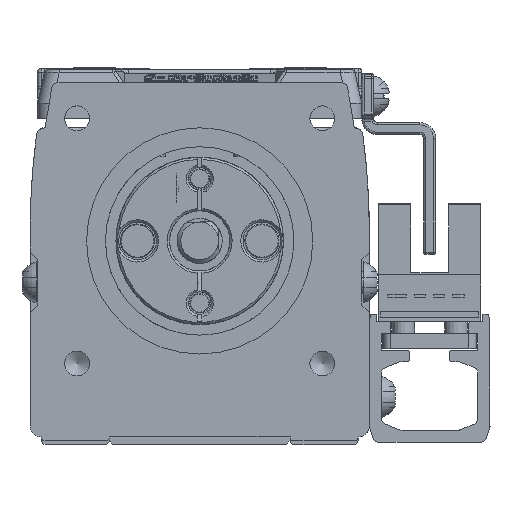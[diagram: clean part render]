
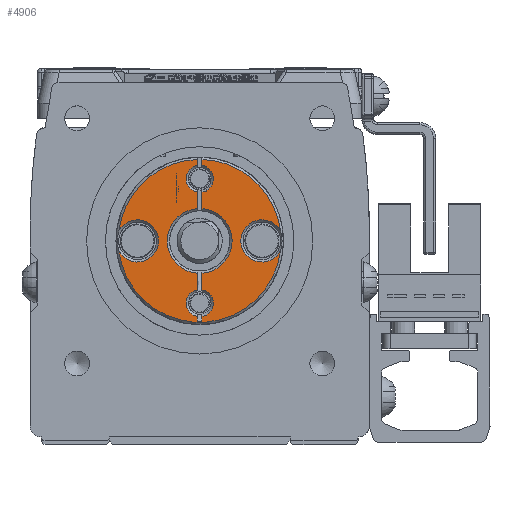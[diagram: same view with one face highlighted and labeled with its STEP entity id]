
A CAD part, left-side view. The second image highlights one B-rep face of the part: STEP entity #4906.
In plain terms, the highlighted planar face has unit normal (-1, 0, 0) as drawn and (1, 0, 0) by its records, which use the part's own axes.
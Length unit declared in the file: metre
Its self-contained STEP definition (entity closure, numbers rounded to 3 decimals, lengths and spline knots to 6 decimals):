
#4906=ADVANCED_FACE('',(#10660),#10661,.F.);
#10660=FACE_OUTER_BOUND('',#18774,.T.);
#10661=PLANE('',#18775);
#18774=EDGE_LOOP('',(#31264,#31265,#31266,#31267,#31268,#31269,#31270,#31271,#31272,#31273,#31274,#31275,#31276,#31277,#31278,#31279,#31280,#31281,#31282,#31283));
#18775=AXIS2_PLACEMENT_3D('',#31284,#31285,#31286);
#31264=ORIENTED_EDGE('',*,*,#50731,.F.);
#31265=ORIENTED_EDGE('',*,*,#50732,.T.);
#31266=ORIENTED_EDGE('',*,*,#49421,.F.);
#31267=ORIENTED_EDGE('',*,*,#50215,.F.);
#31268=ORIENTED_EDGE('',*,*,#50733,.T.);
#31269=ORIENTED_EDGE('',*,*,#50734,.T.);
#31270=ORIENTED_EDGE('',*,*,#50735,.F.);
#31271=ORIENTED_EDGE('',*,*,#49529,.F.);
#31272=ORIENTED_EDGE('',*,*,#50703,.F.);
#31273=ORIENTED_EDGE('',*,*,#50736,.T.);
#31274=ORIENTED_EDGE('',*,*,#50737,.F.);
#31275=ORIENTED_EDGE('',*,*,#50738,.F.);
#31276=ORIENTED_EDGE('',*,*,#50739,.F.);
#31277=ORIENTED_EDGE('',*,*,#50740,.F.);
#31278=ORIENTED_EDGE('',*,*,#50309,.F.);
#31279=ORIENTED_EDGE('',*,*,#50741,.F.);
#31280=ORIENTED_EDGE('',*,*,#50742,.F.);
#31281=ORIENTED_EDGE('',*,*,#50743,.F.);
#31282=ORIENTED_EDGE('',*,*,#50744,.T.);
#31283=ORIENTED_EDGE('',*,*,#50745,.F.);
#31284=CARTESIAN_POINT('',(0.0,0.0,0.));
#31285=DIRECTION('',(-1.0,0.,0.0));
#31286=DIRECTION('',(0.,-1.0,0.0));
#49421=EDGE_CURVE('',#57358,#57359,#57360,.F.);
#49529=EDGE_CURVE('',#57543,#57544,#57545,.T.);
#50215=EDGE_CURVE('',#58728,#57358,#58729,.T.);
#50309=EDGE_CURVE('',#58879,#58880,#58881,.T.);
#50703=EDGE_CURVE('',#59553,#57543,#59555,.T.);
#50731=EDGE_CURVE('',#59602,#59603,#59604,.F.);
#50732=EDGE_CURVE('',#59602,#57359,#59605,.T.);
#50733=EDGE_CURVE('',#58728,#59606,#59607,.F.);
#50734=EDGE_CURVE('',#59606,#59608,#59609,.T.);
#50735=EDGE_CURVE('',#57544,#59608,#59610,.F.);
#50736=EDGE_CURVE('',#59553,#59611,#59612,.T.);
#50737=EDGE_CURVE('',#59613,#59611,#59614,.F.);
#50738=EDGE_CURVE('',#59615,#59613,#59616,.T.);
#50739=EDGE_CURVE('',#59617,#59615,#59618,.T.);
#50740=EDGE_CURVE('',#58880,#59617,#59619,.T.);
#50741=EDGE_CURVE('',#59620,#58879,#59621,.T.);
#50742=EDGE_CURVE('',#59622,#59620,#59623,.T.);
#50743=EDGE_CURVE('',#59624,#59622,#59625,.T.);
#50744=EDGE_CURVE('',#59624,#59626,#59627,.F.);
#50745=EDGE_CURVE('',#59603,#59626,#59628,.T.);
#57358=VERTEX_POINT('',#69019);
#57359=VERTEX_POINT('',#69020);
#57360=LINE('',#69021,#69022);
#57543=VERTEX_POINT('',#69271);
#57544=VERTEX_POINT('',#69272);
#57545=CIRCLE('',#69273,0.0018);
#58728=VERTEX_POINT('',#71040);
#58729=CIRCLE('',#71041,0.0018);
#58879=VERTEX_POINT('',#71274);
#58880=VERTEX_POINT('',#71275);
#58881=CIRCLE('',#71276,0.0028);
#59553=VERTEX_POINT('',#72295);
#59555=LINE('',#72300,#72301);
#59602=VERTEX_POINT('',#72365);
#59603=VERTEX_POINT('',#72366);
#59604=LINE('',#72367,#72368);
#59605=CIRCLE('',#72369,0.0043);
#59606=VERTEX_POINT('',#72370);
#59607=LINE('',#72371,#72372);
#59608=VERTEX_POINT('',#72373);
#59609=LINE('',#72374,#72375);
#59610=LINE('',#72376,#72377);
#59611=VERTEX_POINT('',#72378);
#59612=CIRCLE('',#72379,0.0043);
#59613=VERTEX_POINT('',#72380);
#59614=LINE('',#72381,#72382);
#59615=VERTEX_POINT('',#72383);
#59616=CIRCLE('',#72384,0.0018);
#59617=VERTEX_POINT('',#72385);
#59618=LINE('',#72386,#72387);
#59619=CIRCLE('',#72388,0.0108);
#59620=VERTEX_POINT('',#72389);
#59621=CIRCLE('',#72390,0.0108);
#59622=VERTEX_POINT('',#72391);
#59623=CIRCLE('',#72392,0.0028);
#59624=VERTEX_POINT('',#72393);
#59625=CIRCLE('',#72394,0.0108);
#59626=VERTEX_POINT('',#72395);
#59627=LINE('',#72396,#72397);
#59628=CIRCLE('',#72398,0.0018);
#69019=CARTESIAN_POINT('',(0.,-0.006475,-0.0003));
#69020=CARTESIAN_POINT('',(0.,-0.00429,-0.0003));
#69021=CARTESIAN_POINT('',(0.0,0.0,-0.0003));
#69022=VECTOR('',#86466,1.0);
#69271=CARTESIAN_POINT('',(0.,-0.006475,0.0003));
#69272=CARTESIAN_POINT('',(0.,-0.010025,0.0003));
#69273=AXIS2_PLACEMENT_3D('',#86598,#86599,#86600);
#71040=CARTESIAN_POINT('',(0.,-0.010025,-0.0003));
#71041=AXIS2_PLACEMENT_3D('',#87459,#87460,#87461);
#71274=CARTESIAN_POINT('',(0.,-0.001321,0.010719));
#71275=CARTESIAN_POINT('',(0.,0.001321,0.010719));
#71276=AXIS2_PLACEMENT_3D('',#87581,#87582,#87583);
#72295=CARTESIAN_POINT('',(0.,-0.00429,0.0003));
#72300=CARTESIAN_POINT('',(0.0,0.0,0.0003));
#72301=VECTOR('',#88078,1.0);
#72365=CARTESIAN_POINT('',(0.,0.00429,-0.0003));
#72366=CARTESIAN_POINT('',(0.,0.006475,-0.0003));
#72367=CARTESIAN_POINT('',(0.0,0.0,-0.0003));
#72368=VECTOR('',#88108,1.0);
#72369=AXIS2_PLACEMENT_3D('',#88109,#88110,#88111);
#72370=CARTESIAN_POINT('',(0.,-0.010642,-0.0003));
#72371=CARTESIAN_POINT('',(0.0,0.0025,-0.0003));
#72372=VECTOR('',#88112,1.0);
#72373=CARTESIAN_POINT('',(0.,-0.010642,0.0003));
#72374=CARTESIAN_POINT('',(0.,-0.010642,0.0003));
#72375=VECTOR('',#88113,1.0);
#72376=CARTESIAN_POINT('',(0.0,0.0025,0.0003));
#72377=VECTOR('',#88114,1.0);
#72378=CARTESIAN_POINT('',(0.0,0.00429,0.0003));
#72379=AXIS2_PLACEMENT_3D('',#88115,#88116,#88117);
#72380=CARTESIAN_POINT('',(0.0,0.006475,0.0003));
#72381=CARTESIAN_POINT('',(0.0,0.0025,0.0003));
#72382=VECTOR('',#88118,1.0);
#72383=CARTESIAN_POINT('',(0.,0.010025,0.0003));
#72384=AXIS2_PLACEMENT_3D('',#88119,#88120,#88121);
#72385=CARTESIAN_POINT('',(0.,0.010796,0.0003));
#72386=CARTESIAN_POINT('',(0.0,0.0,0.0003));
#72387=VECTOR('',#88122,1.0);
#72388=AXIS2_PLACEMENT_3D('',#88123,#88124,#88125);
#72389=CARTESIAN_POINT('',(0.,-0.001321,-0.010719));
#72390=AXIS2_PLACEMENT_3D('',#88126,#88127,#88128);
#72391=CARTESIAN_POINT('',(0.,0.001321,-0.010719));
#72392=AXIS2_PLACEMENT_3D('',#88129,#88130,#88131);
#72393=CARTESIAN_POINT('',(0.,0.010796,-0.0003));
#72394=AXIS2_PLACEMENT_3D('',#88132,#88133,#88134);
#72395=CARTESIAN_POINT('',(0.,0.010025,-0.0003));
#72396=CARTESIAN_POINT('',(0.0,0.0025,-0.0003));
#72397=VECTOR('',#88135,1.0);
#72398=AXIS2_PLACEMENT_3D('',#88136,#88137,#88138);
#86466=DIRECTION('',(0.,-1.0,0.0));
#86598=CARTESIAN_POINT('',(0.0,-0.00825,0.));
#86599=DIRECTION('',(1.0,0.0,0.0));
#86600=DIRECTION('',(0.0,0.0,-1.0));
#87459=CARTESIAN_POINT('',(0.0,-0.00825,0.));
#87460=DIRECTION('',(1.0,0.0,0.0));
#87461=DIRECTION('',(0.0,0.0,-1.0));
#87581=CARTESIAN_POINT('',(0.0,0.,0.00825));
#87582=DIRECTION('',(1.0,0.,0.0));
#87583=DIRECTION('',(0.,1.0,0.0));
#88078=DIRECTION('',(0.,-1.0,0.0));
#88108=DIRECTION('',(0.,-1.0,0.0));
#88109=CARTESIAN_POINT('',(0.,0.,0.));
#88110=DIRECTION('',(-1.0,0.,0.0));
#88111=DIRECTION('',(0.,-1.0,0.0));
#88112=DIRECTION('',(0.0,1.0,0.0));
#88113=DIRECTION('',(0.0,0.0,1.0));
#88114=DIRECTION('',(0.0,1.0,0.0));
#88115=CARTESIAN_POINT('',(0.,0.,0.));
#88116=DIRECTION('',(-1.0,0.,0.0));
#88117=DIRECTION('',(0.,-1.0,0.0));
#88118=DIRECTION('',(0.0,1.0,0.0));
#88119=CARTESIAN_POINT('',(0.0,0.00825,0.));
#88120=DIRECTION('',(1.0,0.0,0.0));
#88121=DIRECTION('',(0.0,0.0,-1.0));
#88122=DIRECTION('',(0.,-1.0,0.0));
#88123=CARTESIAN_POINT('',(0.,0.0,0.));
#88124=DIRECTION('',(-1.0,0.0,0.0));
#88125=DIRECTION('',(0.0,0.0,1.0));
#88126=CARTESIAN_POINT('',(0.,0.0,0.));
#88127=DIRECTION('',(-1.0,0.0,0.0));
#88128=DIRECTION('',(0.0,0.0,1.0));
#88129=CARTESIAN_POINT('',(0.,0.,-0.00825));
#88130=DIRECTION('',(1.0,0.,0.0));
#88131=DIRECTION('',(0.,1.0,0.0));
#88132=CARTESIAN_POINT('',(0.,0.0,0.));
#88133=DIRECTION('',(-1.0,0.0,0.0));
#88134=DIRECTION('',(0.0,0.0,1.0));
#88135=DIRECTION('',(0.0,1.0,0.0));
#88136=CARTESIAN_POINT('',(0.0,0.00825,0.));
#88137=DIRECTION('',(1.0,0.0,0.0));
#88138=DIRECTION('',(0.0,0.0,-1.0));
